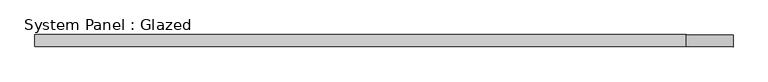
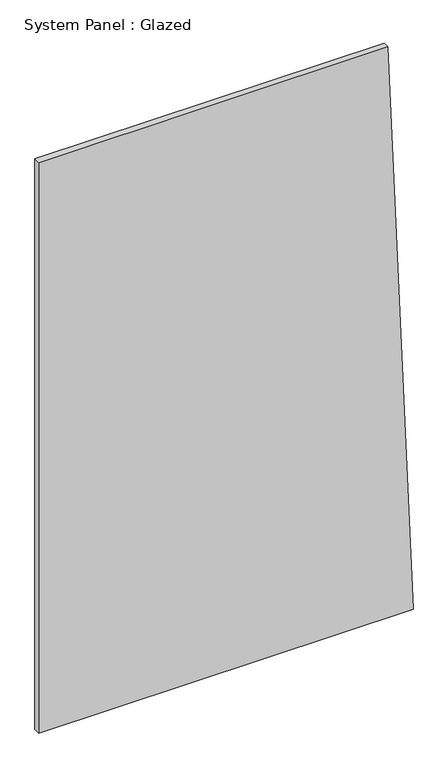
"""IFC4 building model written with IfcOpenShell, lengths in millimetres: plate geometry, System Panel : Glazed."""

import ifcopenshell
import ifcopenshell.guid

model = None  # the IFC model being written
_history = None  # IfcOwnerHistory: only IFC2X3 demands one
_inside = {}  # id of a spatial element -> (the spatial element, [elements in it])
_under = {}  # id of a project, library or spatial element -> (it, [spatial elements below it])
_declared = {}  # id of a project -> (the project, [libraries it declares])
_typed = {}  # id of a type object -> (the type object, [elements of that type])
_made_of = {}  # id of a material, layer set ... -> (it, [elements and type objects made of it])


def new_model(schema):
    """Start an empty IFC model of exactly this schema.

    Asked for "IFC4X3", IfcOpenShell would pick the latest addendum, in which some entities
    have other attributes; the version numbers below select the first issue.
    IFC2X3 requires an IfcOwnerHistory on every rooted entity: one is made here for all.
    """
    global model, _history
    if schema == "IFC4X3":
        model = ifcopenshell.file(schema_version=(4, 3, 0, 0))
    else:
        model = ifcopenshell.file(schema=schema)
    _inside.clear()
    _under.clear()
    _declared.clear()
    _typed.clear()
    _made_of.clear()
    _history = None
    if model.schema == "IFC2X3":
        org = make("IfcOrganization", Name="unknown")
        user = make(
            "IfcPersonAndOrganization",
            ThePerson=make("IfcPerson", FamilyName="unknown"),
            TheOrganization=org,
        )
        app = make(
            "IfcApplication",
            ApplicationDeveloper=org,
            Version="unknown",
            ApplicationFullName="unknown",
            ApplicationIdentifier="unknown",
        )
        _history = make(
            "IfcOwnerHistory",
            OwningUser=user,
            OwningApplication=app,
            ChangeAction="ADDED",
            CreationDate=0,
        )
    return model


def make(cls, **values):
    """One entity of the class cls with the attributes given. An attribute that is None is left unset."""
    return model.create_entity(
        cls, **{name: value for name, value in values.items() if value is not None}
    )


def rooted(cls, **values):
    """An entity with a GlobalId (a new one), such as an element, a storey or a relation."""
    return make(cls, GlobalId=ifcopenshell.guid.new(), OwnerHistory=_history, **values)


def si_unit(unit_type, name, prefix=None):
    """IfcSIUnit, for example si_unit("LENGTHUNIT", "METRE", prefix="MILLI")."""
    return make("IfcSIUnit", UnitType=unit_type, Prefix=prefix, Name=name)


def assignment(units):
    """IfcUnitAssignment: the units of a project."""
    return None if units is None else make("IfcUnitAssignment", Units=units)


def point(xyz):
    """IfcCartesianPoint."""
    return None if xyz is None else make("IfcCartesianPoint", Coordinates=xyz)


def direction(xyz):
    """IfcDirection."""
    return None if xyz is None else make("IfcDirection", DirectionRatios=xyz)


def frame(location, z_axis=None, x_axis=None):
    """IfcAxis2Placement3D, a coordinate frame: its origin and axes. An axis left out is left unset."""
    return make(
        "IfcAxis2Placement3D",
        Location=point(location),
        Axis=direction(z_axis),
        RefDirection=direction(x_axis),
    )


def origin():
    """The frame at (0, 0, 0) with its axes left unset."""
    return frame((0.0, 0.0, 0.0))


def place(relative_to, where):
    """IfcLocalPlacement: puts the frame where relative to a parent placement (None: the world)."""
    return make(
        "IfcLocalPlacement", PlacementRelTo=relative_to, RelativePlacement=where
    )


def context(
    kind, dimensions, precision=None, world=None, true_north=None, identifier=None
):
    """IfcGeometricRepresentationContext, for example the 3D "Model" context."""
    return make(
        "IfcGeometricRepresentationContext",
        ContextIdentifier=identifier,
        ContextType=kind,
        CoordinateSpaceDimension=dimensions,
        Precision=precision,
        WorldCoordinateSystem=world,
        TrueNorth=true_north,
    )


def project(units=None, contexts=None):
    """IfcProject with its units and contexts."""
    return rooted(
        "IfcProject",
        Name="project",
        RepresentationContexts=contexts,
        UnitsInContext=assignment(units),
    )


def spatial(cls, under=None, at=None, **own):
    """A site, building, storey or space (cls), placed at a placement, below another one or the project."""
    s = rooted(cls, ObjectPlacement=at, **own)
    if under is not None:
        _under.setdefault(under.id(), (under, []))[1].append(s)
    return s


def polyline(points):
    """IfcPolyline through the points."""
    return make("IfcPolyline", Points=[point(p) for p in points])


def outline(outer, holes=None, kind="AREA"):
    """IfcArbitraryClosedProfileDef: a profile drawn as a closed curve; with holes, ...WithVoids."""
    if holes is None:
        return make("IfcArbitraryClosedProfileDef", ProfileType=kind, OuterCurve=outer)
    return make(
        "IfcArbitraryProfileDefWithVoids",
        ProfileType=kind,
        OuterCurve=outer,
        InnerCurves=holes,
    )


def extrude(swept, where, along, depth):
    """IfcExtrudedAreaSolid: the profile swept, set in the frame where, extruded along a direction by depth."""
    return make(
        "IfcExtrudedAreaSolid",
        SweptArea=swept,
        Position=where,
        ExtrudedDirection=direction(along),
        Depth=depth,
    )


def shape(context_of_items, identifier, shape_type, items):
    """IfcShapeRepresentation: the items that make up one representation, for example the "Body"."""
    return make(
        "IfcShapeRepresentation",
        ContextOfItems=context_of_items,
        RepresentationIdentifier=identifier,
        RepresentationType=shape_type,
        Items=items,
    )


def source(mapping_origin, context_of_items, identifier, shape_type, items):
    """IfcRepresentationMap: a shape defined once, which mapped items show again and again."""
    return make(
        "IfcRepresentationMap",
        MappingOrigin=mapping_origin,
        MappedRepresentation=shape(context_of_items, identifier, shape_type, items),
    )


def transform(
    local_origin,
    x_axis=None,
    y_axis=None,
    z_axis=None,
    scale=None,
    scale2=None,
    scale3=None,
    uniform=True,
):
    """IfcCartesianTransformationOperator3D, or its non-uniform kind. x_axis, y_axis, z_axis: its Axis1, 2, 3."""
    if uniform:
        return make(
            "IfcCartesianTransformationOperator3D",
            Axis1=direction(x_axis),
            Axis2=direction(y_axis),
            LocalOrigin=point(local_origin),
            Scale=scale,
            Axis3=direction(z_axis),
        )
    return make(
        "IfcCartesianTransformationOperator3DnonUniform",
        Axis1=direction(x_axis),
        Axis2=direction(y_axis),
        LocalOrigin=point(local_origin),
        Scale=scale,
        Axis3=direction(z_axis),
        Scale2=scale2,
        Scale3=scale3,
    )


def mapped(mapping_source, mapping_target):
    """IfcMappedItem: shows the shape of a source again, moved by a transform."""
    return make(
        "IfcMappedItem", MappingSource=mapping_source, MappingTarget=mapping_target
    )


def made_of(thing, what):
    """Note that an element or type object is made of a material, layer set ...; save() writes the relation."""
    if what is not None:
        _made_of.setdefault(what.id(), (what, []))[1].append(thing)
    return thing


def element(
    cls,
    number,
    at=None,
    inside=None,
    cuts=None,
    type_object=None,
    material=None,
    context=None,
    identifier="Body",
    shape_type=None,
    held_by="IfcProductDefinitionShape",
    body=None,
    shapes=None,
    **own,
):
    """One element of the class cls, such as IfcWall. Its Tag is "e" and its number.

    at: its placement. inside: the storey or other place that contains it. cuts: it is an
    opening in that element (IfcRelVoidsElement). A single representation is given by context,
    identifier, shape_type and body (its items); several are given by shapes. held_by: the class
    of the entity that holds the representations. save() writes the other relations.
    """
    e = rooted(cls, Tag="e%d" % number, ObjectPlacement=at, **own)
    if body is not None:
        shapes = [shape(context, identifier, shape_type, body)]
    if shapes is not None:
        e.Representation = make(held_by, Representations=shapes)
    if inside is not None:
        _inside.setdefault(inside.id(), (inside, []))[1].append(e)
    if cuts is not None:
        rooted(
            "IfcRelVoidsElement", RelatingBuildingElement=cuts, RelatedOpeningElement=e
        )
    if type_object is not None:
        _typed.setdefault(type_object.id(), (type_object, []))[1].append(e)
    return made_of(e, material)


def aggregate(whole, parts):
    """IfcRelAggregates: a whole, such as a stair, and the parts it consists of."""
    return rooted("IfcRelAggregates", RelatingObject=whole, RelatedObjects=parts)


def save(model, path):
    """Write the relations noted so far, then the file.

    IfcRelAggregates (storeys below a building ...), IfcRelContainedInSpatialStructure (elements
    in a storey), IfcRelDefinesByType, IfcRelAssociatesMaterial and IfcRelDeclares: one each for
    every whole, place, type object, material and project.
    """
    for whole, parts in _under.values():
        aggregate(whole, parts)
    for where, things in _inside.values():
        rooted(
            "IfcRelContainedInSpatialStructure",
            RelatedElements=things,
            RelatingStructure=where,
        )
    for kind, things in _typed.values():
        rooted("IfcRelDefinesByType", RelatedObjects=things, RelatingType=kind)
    for what, things in _made_of.values():
        rooted("IfcRelAssociatesMaterial", RelatedObjects=things, RelatingMaterial=what)
    for by, libraries in _declared.values():
        rooted("IfcRelDeclares", RelatingContext=by, RelatedDefinitions=libraries)
    model.write(path)


def system_panel_glazed_5984c591(model_context):
    return source(origin(), model_context, "Body", "SweptSolid", [
        extrude(outline(polyline([(0.0, -737.2052115), (0.0, 737.2052115), (2374.9, 638.2827096), (2374.9, -737.2052115), (0.0, -737.2052115)])), frame((0.0, 19.05, 0.0), z_axis=(0.0, 1.0, 0.0), x_axis=(0.0, 0.0, 1.0)), (0.0, 0.0, 1.0), 25.4),
    ])


if __name__ == "__main__":
    model = new_model("IFC4")
    model_context = context("Model", 3, world=origin())
    ifc_project = project(units=[si_unit("LENGTHUNIT", "METRE", prefix="MILLI")], contexts=[model_context])
    site = spatial("IfcSite", under=ifc_project)
    building = spatial("IfcBuilding", under=site)
    placement = place(None, origin())
    system_panel_glazed_shape = system_panel_glazed_5984c591(model_context)
    element("IfcPlate", 1, ObjectType="System Panel : Glazed", at=placement, inside=building, context=model_context, shape_type="MappedRepresentation", body=[
        mapped(system_panel_glazed_shape, transform((0.0, 0.0, 0.0), x_axis=(1.0, 0.0, 0.0), y_axis=(0.0, 1.0, 0.0), z_axis=(0.0, 0.0, 1.0))),
    ])
    save(model, "model.ifc")
